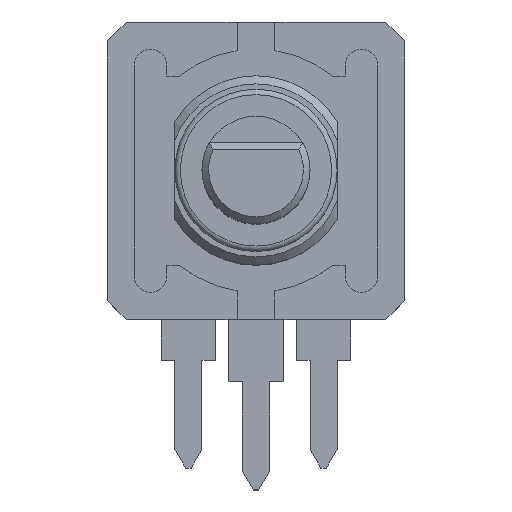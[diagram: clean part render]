
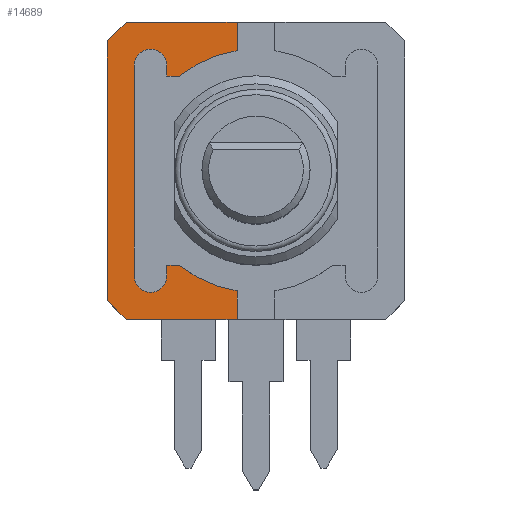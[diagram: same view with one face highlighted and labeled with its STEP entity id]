
A CAD part, top view. The second image highlights one B-rep face of the part: STEP entity #14689.
In plain terms, the highlighted planar face has unit normal (0, 0, 1).
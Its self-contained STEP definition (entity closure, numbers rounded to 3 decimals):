
#455=CIRCLE('',#15757,4.5);
#457=CIRCLE('',#15762,0.6);
#459=CIRCLE('',#15766,0.6);
#461=CIRCLE('',#15771,4.5);
#1303=FACE_OUTER_BOUND('',#2064,.T.);
#2064=EDGE_LOOP('',(#12606,#12607,#12608,#12609,#12610,#12611,#12612,#12613,
#12614,#12615,#12616,#12617,#12618,#12619,#12620,#12621));
#3568=LINE('',#23418,#5178);
#3590=LINE('',#23475,#5200);
#3669=LINE('',#23667,#5279);
#3672=LINE('',#23673,#5282);
#3676=LINE('',#23685,#5286);
#3680=LINE('',#23697,#5290);
#3683=LINE('',#23703,#5293);
#3687=LINE('',#23715,#5297);
#3714=LINE('',#23784,#5324);
#3716=LINE('',#23789,#5326);
#3717=LINE('',#23790,#5327);
#3718=LINE('',#23791,#5328);
#5178=VECTOR('',#19211,10.);
#5200=VECTOR('',#19255,10.);
#5279=VECTOR('',#19440,10.);
#5282=VECTOR('',#19445,10.);
#5286=VECTOR('',#19457,10.);
#5290=VECTOR('',#19469,10.);
#5293=VECTOR('',#19474,10.);
#5297=VECTOR('',#19486,10.);
#5324=VECTOR('',#19553,10.);
#5326=VECTOR('',#19559,10.);
#5327=VECTOR('',#19560,10.);
#5328=VECTOR('',#19561,10.);
#6506=VERTEX_POINT('',#23415);
#6507=VERTEX_POINT('',#23417);
#6530=VERTEX_POINT('',#23472);
#6531=VERTEX_POINT('',#23474);
#6576=VERTEX_POINT('',#23657);
#6577=VERTEX_POINT('',#23659);
#6579=VERTEX_POINT('',#23665);
#6581=VERTEX_POINT('',#23671);
#6583=VERTEX_POINT('',#23677);
#6585=VERTEX_POINT('',#23683);
#6587=VERTEX_POINT('',#23689);
#6589=VERTEX_POINT('',#23695);
#6591=VERTEX_POINT('',#23701);
#6593=VERTEX_POINT('',#23707);
#6595=VERTEX_POINT('',#23713);
#6618=VERTEX_POINT('',#23788);
#8446=EDGE_CURVE('',#6506,#6507,#3568,.T.);
#8472=EDGE_CURVE('',#6530,#6531,#3590,.T.);
#8562=EDGE_CURVE('',#6577,#6576,#455,.T.);
#8566=EDGE_CURVE('',#6576,#6579,#3669,.T.);
#8569=EDGE_CURVE('',#6579,#6581,#3672,.T.);
#8572=EDGE_CURVE('',#6581,#6583,#457,.T.);
#8575=EDGE_CURVE('',#6583,#6585,#3676,.T.);
#8578=EDGE_CURVE('',#6585,#6587,#459,.T.);
#8581=EDGE_CURVE('',#6587,#6589,#3680,.T.);
#8584=EDGE_CURVE('',#6589,#6591,#3683,.T.);
#8587=EDGE_CURVE('',#6591,#6593,#461,.T.);
#8590=EDGE_CURVE('',#6593,#6595,#3687,.T.);
#8625=EDGE_CURVE('',#6530,#6577,#3714,.T.);
#8627=EDGE_CURVE('',#6618,#6595,#3716,.T.);
#8628=EDGE_CURVE('',#6507,#6618,#3717,.T.);
#8629=EDGE_CURVE('',#6531,#6506,#3718,.T.);
#12606=ORIENTED_EDGE('',*,*,#8590,.T.);
#12607=ORIENTED_EDGE('',*,*,#8627,.F.);
#12608=ORIENTED_EDGE('',*,*,#8628,.F.);
#12609=ORIENTED_EDGE('',*,*,#8446,.F.);
#12610=ORIENTED_EDGE('',*,*,#8629,.F.);
#12611=ORIENTED_EDGE('',*,*,#8472,.F.);
#12612=ORIENTED_EDGE('',*,*,#8625,.T.);
#12613=ORIENTED_EDGE('',*,*,#8562,.T.);
#12614=ORIENTED_EDGE('',*,*,#8566,.T.);
#12615=ORIENTED_EDGE('',*,*,#8569,.T.);
#12616=ORIENTED_EDGE('',*,*,#8572,.T.);
#12617=ORIENTED_EDGE('',*,*,#8575,.T.);
#12618=ORIENTED_EDGE('',*,*,#8578,.T.);
#12619=ORIENTED_EDGE('',*,*,#8581,.T.);
#12620=ORIENTED_EDGE('',*,*,#8584,.T.);
#12621=ORIENTED_EDGE('',*,*,#8587,.T.);
#13239=PLANE('',#15794);
#14689=ADVANCED_FACE('',(#1303),#13239,.T.);
#15757=AXIS2_PLACEMENT_3D('',#23660,#19433,#19434);
#15762=AXIS2_PLACEMENT_3D('',#23679,#19451,#19452);
#15766=AXIS2_PLACEMENT_3D('',#23691,#19463,#19464);
#15771=AXIS2_PLACEMENT_3D('',#23709,#19480,#19481);
#15794=AXIS2_PLACEMENT_3D('',#23787,#19557,#19558);
#19211=DIRECTION('',(0.,1.,0.));
#19255=DIRECTION('',(-1.,0.,0.));
#19433=DIRECTION('center_axis',(0.,0.,
-1.));
#19434=DIRECTION('ref_axis',(0.629,0.778,0.));
#19440=DIRECTION('',(-1.,0.,0.));
#19445=DIRECTION('',(0.,-1.,0.));
#19451=DIRECTION('center_axis',(0.,0.,
-1.));
#19452=DIRECTION('ref_axis',(1.,0.,0.));
#19457=DIRECTION('',(0.,1.,0.));
#19463=DIRECTION('center_axis',(0.,0.,
-1.));
#19464=DIRECTION('ref_axis',(-1.,0.,0.));
#19469=DIRECTION('',(0.,-1.,0.));
#19474=DIRECTION('',(1.,0.,0.));
#19480=DIRECTION('center_axis',(0.,0.,
-1.));
#19481=DIRECTION('ref_axis',(0.156,-0.988,0.));
#19486=DIRECTION('',(0.,1.,0.));
#19553=DIRECTION('',(0.,1.,0.));
#19557=DIRECTION('center_axis',(0.,0.,
1.));
#19558=DIRECTION('ref_axis',(0.,1.,0.));
#19559=DIRECTION('',(1.,0.,0.));
#19560=DIRECTION('',(0.707,0.707,0.));
#19561=DIRECTION('',(-0.707,0.707,0.));
#23415=CARTESIAN_POINT('',(-26.521,-12.086,14.485));
#23417=CARTESIAN_POINT('',(-26.521,-2.486,14.485));
#23418=CARTESIAN_POINT('',(-26.521,-2.486,14.485));
#23472=CARTESIAN_POINT('',(-21.721,-12.786,14.485));
#23474=CARTESIAN_POINT('',(-25.821,-12.786,14.485));
#23475=CARTESIAN_POINT('',(-25.821,-12.786,14.485));
#23657=CARTESIAN_POINT('',(-23.85,-10.786,14.485));
#23659=CARTESIAN_POINT('',(-21.721,-11.731,14.485));
#23660=CARTESIAN_POINT('Origin',(-21.021,-7.286,14.485));
#23665=CARTESIAN_POINT('',(-24.321,-10.786,14.485));
#23667=CARTESIAN_POINT('',(-22.436,-10.786,14.485));
#23671=CARTESIAN_POINT('',(-24.321,-11.186,14.485));
#23673=CARTESIAN_POINT('',(-24.321,-9.036,14.485));
#23677=CARTESIAN_POINT('',(-25.521,-11.186,14.485));
#23679=CARTESIAN_POINT('Origin',(-24.921,-11.186,14.485));
#23683=CARTESIAN_POINT('',(-25.521,-3.386,14.485));
#23685=CARTESIAN_POINT('',(-25.521,-9.236,14.485));
#23689=CARTESIAN_POINT('',(-24.321,-3.386,14.485));
#23691=CARTESIAN_POINT('Origin',(-24.921,-3.386,14.485));
#23695=CARTESIAN_POINT('',(-24.321,-3.786,14.485));
#23697=CARTESIAN_POINT('',(-24.321,-5.336,14.485));
#23701=CARTESIAN_POINT('',(-23.85,-3.786,14.485));
#23703=CARTESIAN_POINT('',(-22.671,-3.786,14.485));
#23707=CARTESIAN_POINT('',(-21.721,-2.841,14.485));
#23709=CARTESIAN_POINT('Origin',(-21.021,-7.286,14.485));
#23713=CARTESIAN_POINT('',(-21.721,-1.786,14.485));
#23715=CARTESIAN_POINT('',(-21.721,-5.064,14.485));
#23784=CARTESIAN_POINT('',(-21.721,-10.036,14.485));
#23787=CARTESIAN_POINT('Origin',(-21.021,-7.286,14.485));
#23788=CARTESIAN_POINT('',(-25.821,-1.786,14.485));
#23789=CARTESIAN_POINT('',(-16.221,-1.786,14.485));
#23790=CARTESIAN_POINT('',(-25.821,-1.786,14.485));
#23791=CARTESIAN_POINT('',(-26.521,-12.086,14.485));
